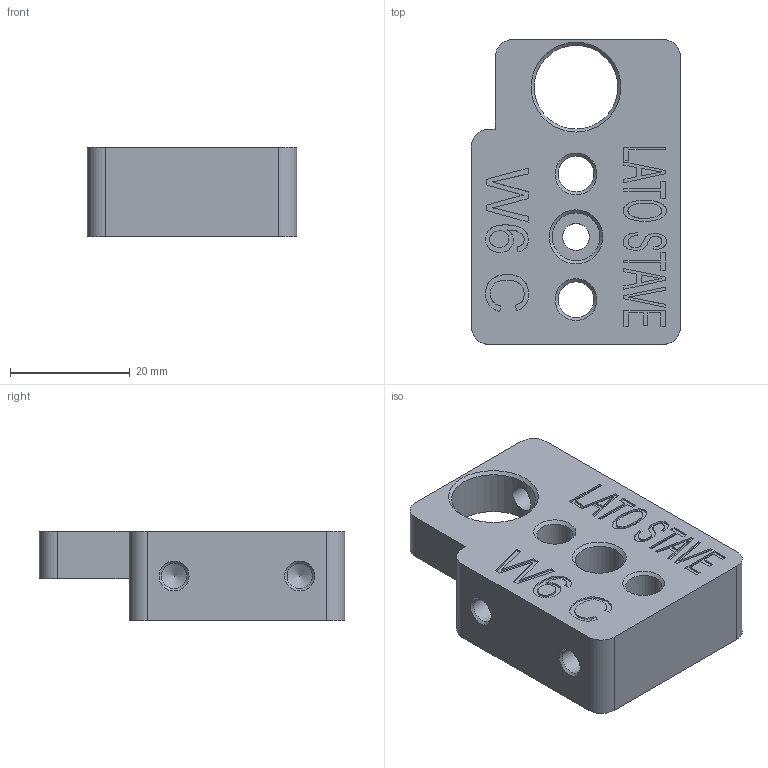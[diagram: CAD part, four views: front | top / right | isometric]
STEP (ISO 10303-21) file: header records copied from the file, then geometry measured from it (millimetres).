
FILE_DESCRIPTION(/* description */ (''),/* implementation_level */ '2;1');
FILE_NAME(/* name */ 'WHEELS-INSERT.08.stp',/* time_stamp */ '2018-10-17T13:33:04+02:00',/* author */ (''),/* organization */ (''),/* preprocessor_version */ 'ST-DEVELOPER v16.7',/* originating_system */ 'SIEMENS PLM Software NX 12.0',/* authorisation */ '');
FILE_SCHEMA (('AP203_CONFIGURATION_CONTROLLED_3D_DESIGN_OF_MECHANICAL_PARTS_AND_ASSEMBLIES_MIM_LF { 1 0 10303 403 2 1 2}'));
Length unit declared in the file: millimetre
Products named in the file (1): turc4ED01DE0qldg
Bounding box: 35 x 51 x 15 mm (x, y, z)
Volume: 19393.3 mm3; surface area: 6965.8 mm2
Topology: 1 solids, 1 shells, 148 faces, 389 edges, 259 vertices
Faces by surface type: plane 95, extrusion 27, cylinder 14, cone 12
Full cylindrical faces by diameter (mm): 4.2 x3, 4.5 x1, 6 x2, 8 x1, 14 x1
Entity records: 5365 total; most frequent: CARTESIAN_POINT 2051, ORIENTED_EDGE 708, DIRECTION 481, EDGE_CURVE 354, VERTEX_POINT 246, B_SPLINE_CURVE_WITH_KNOTS 220, EDGE_LOOP 194, AXIS2_PLACEMENT_3D 165
